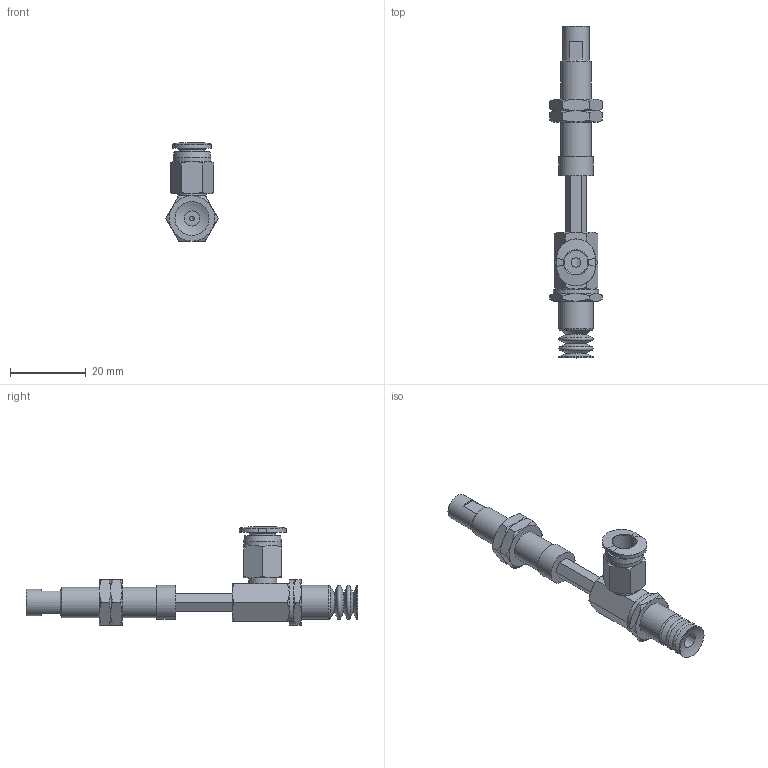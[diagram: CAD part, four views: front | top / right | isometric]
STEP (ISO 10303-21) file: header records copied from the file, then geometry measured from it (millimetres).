
FILE_DESCRIPTION(('STEP AP203'),'1');
FILE_NAME('-O.stp','2025-04-04T00:58:01',(' '),(' '),'Spatial InterOp 3D',' ',' ');
FILE_SCHEMA(('CONFIG_CONTROL_DESIGN'));
Length unit declared in the file: millimetre
Products named in the file (8): BNABPCYH-10-15-※-O; Adapter_napc-10-T; Connector_h-10-15; Nut napc_h-10-15; NAPCTH-10-15-FBODY; NAPCTH-10-15-MBODY; BPCG-10-※; PC-C_06-M5
Assembly tree (8 placements, depth 2):
  BNABPCYH-10-15-※-O
    Adapter_napc-10-T
    Connector_h-10-15
    Nut napc_h-10-15  x2
    NAPCTH-10-15-FBODY
    NAPCTH-10-15-MBODY
    BPCG-10-※
    PC-C_06-M5
Bounding box: 13.86 x 87.7 x 25.98 mm (x, y, z)
Volume: 4955.4 mm3; surface area: 6576.7 mm2
Topology: 7 solids, 10 shells, 220 faces, 461 edges, 275 vertices
Faces by surface type: plane 88, cone 85, cylinder 28, torus 10, bspline 4, revolution 3, sphere 2
Full cylindrical faces by diameter (mm): 1.25 x1, 4 x3, 4.134 x3, 5 x7, 7 x2, 7.188 x2, 7.4 x1, 8 x1, 8.2 x1, 9 x3, 10 x1, 12 x1
Entity records: 5872 total; most frequent: CARTESIAN_POINT 1678, DIRECTION 781, ORIENTED_EDGE 690, EDGE_CURVE 347, AXIS2_PLACEMENT_3D 339, EDGE_LOOP 284, VERTEX_POINT 242, FACE_OUTER_BOUND 174
